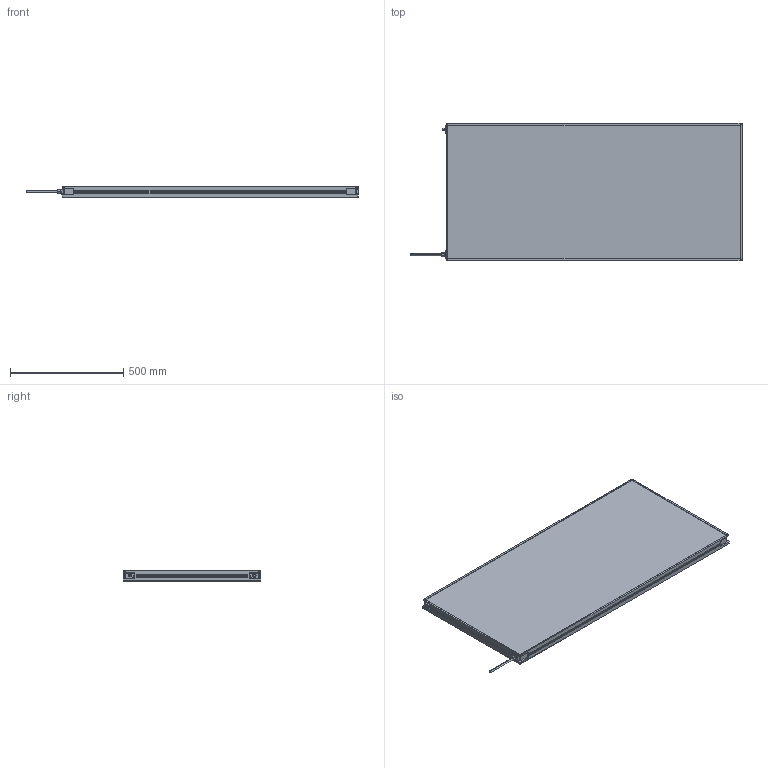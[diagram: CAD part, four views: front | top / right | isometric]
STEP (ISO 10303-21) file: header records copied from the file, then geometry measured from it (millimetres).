
FILE_DESCRIPTION (( 'STEP AP214' ), '1' );
FILE_NAME ('MBACK-xxxx-xxx-M1A2_CLIENT600x1300.STEP', '2022-04-01T11:45:59', ( '' ), ( '' ), 'SwSTEP 2.0', 'SolidWorks 2020', '' );
FILE_SCHEMA (( 'AUTOMOTIVE_DESIGN' ));
Length unit declared in the file: millimetre
Products named in the file (1): MBACK-xxxx-xxx-M1A2_CLIENT600x1300
Bounding box: 1467.4 x 608 x 45.5 mm (x, y, z)
Volume: 33144333.2 mm3; surface area: 1851027.4 mm2
Topology: 1 solids, 1 shells, 470 faces, 1210 edges, 804 vertices
Faces by surface type: plane 265, cylinder 117, bspline 80, cone 8
Entity records: 18046 total; most frequent: CARTESIAN_POINT 6837, ORIENTED_EDGE 2420, DIRECTION 2082, EDGE_CURVE 1210, VERTEX_POINT 804, LINE 800, VECTOR 800, AXIS2_PLACEMENT_3D 641
